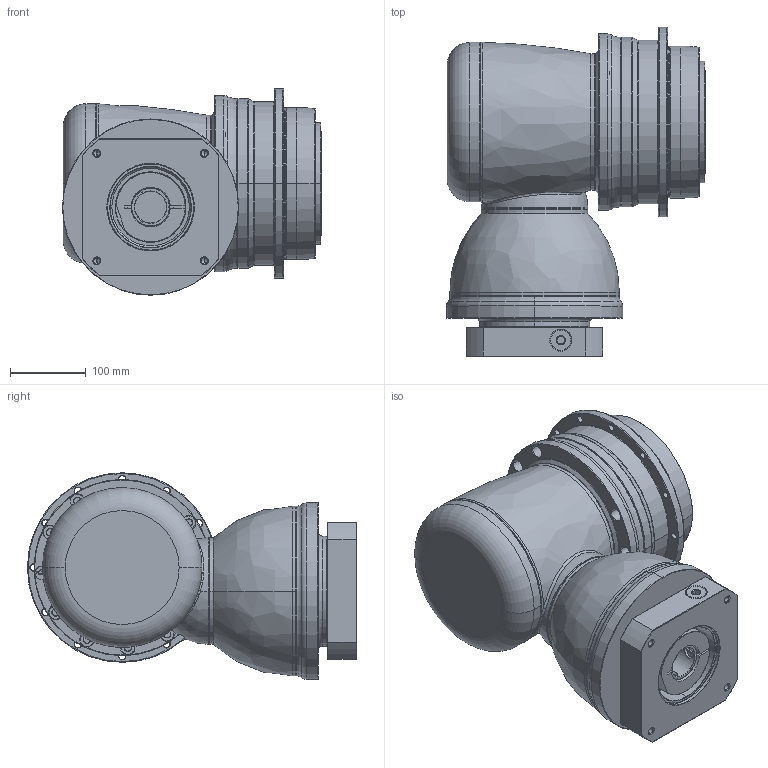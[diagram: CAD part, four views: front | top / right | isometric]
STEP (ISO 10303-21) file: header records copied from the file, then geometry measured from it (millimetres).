
FILE_DESCRIPTION((''),'2;1');
FILE_NAME('AHK200_2ST_42-P0409A00101_ASM','2016-10-14T',('d01943'),(''),'PRO/ENGINEER BY PARAMETRIC TECHNOLOGY CORPORATION, 2008410','PRO/ENGINEER BY PARAMETRIC TECHNOLOGY CORPORATION, 2008410','');
FILE_SCHEMA(('CONFIG_CONTROL_DESIGN'));
Length unit declared in the file: millimetre
Products named in the file (12): P1008600002; P1802600011; P0278600003; P0359600002; P1315600001; P1007600001; P1318600301; P0503A00012; P0912603201; P0409A00101; 21711422019; AHK200_2ST_42-P0409A00101_ASM
Assembly tree (11 placements, depth 2):
  AHK200_2ST_42-P0409A00101_ASM
    P1008600002
    P1802600011
    P0278600003
    P0359600002
    P1315600001
    P1007600001
    P1318600301
    P0503A00012
    P0912603201
    P0409A00101
    21711422019
Bounding box: 341 x 433.25 x 271.75 mm (x, y, z)
Volume: 13569601.9 mm3; surface area: 1168625.5 mm2
Topology: 12 solids, 12 shells, 918 faces, 2091 edges, 1214 vertices
Faces by surface type: cylinder 322, cone 294, plane 135, torus 128, bspline 37, sphere 2
Entity records: 31993 total; most frequent: CARTESIAN_POINT 10859, DIRECTION 4866, ORIENTED_EDGE 4058, AXIS2_PLACEMENT_3D 2089, EDGE_CURVE 2029, VERTEX_POINT 1214, CIRCLE 1185, EDGE_LOOP 1059
